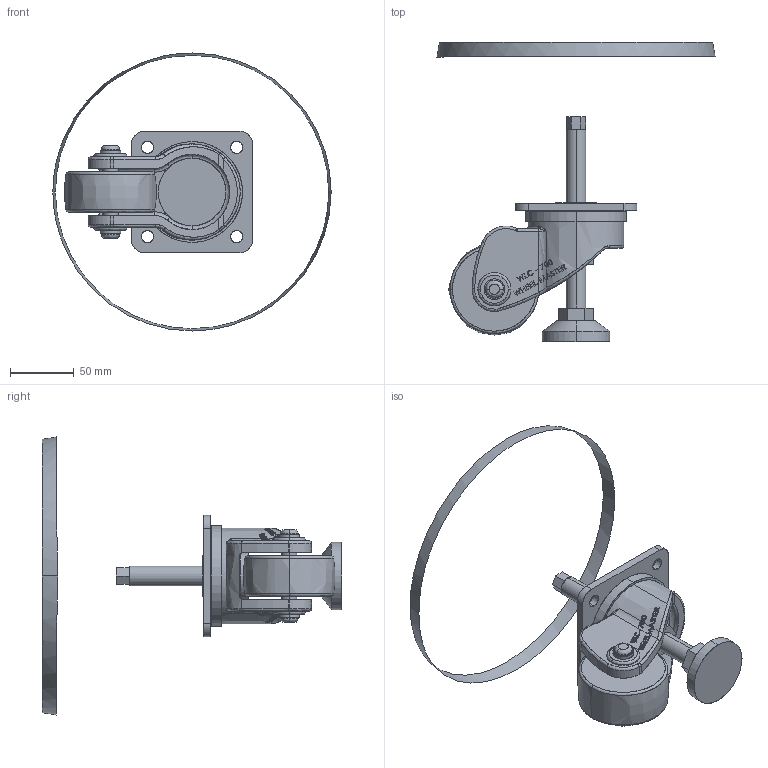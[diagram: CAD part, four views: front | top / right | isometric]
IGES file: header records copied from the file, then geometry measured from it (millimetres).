
Start section: SolidWorks IGES file using analytic representation for surfaces
Bounding box: 217.98 x 234.29 x 217.87 mm (x, y, z)
Surface area: 112731.1 mm2 (no closed solid volume)
Topology: 0 solids, 0 shells, 621 faces, 9941 edges, 9936 vertices
Faces by surface type: bspline 470, revolution 151
